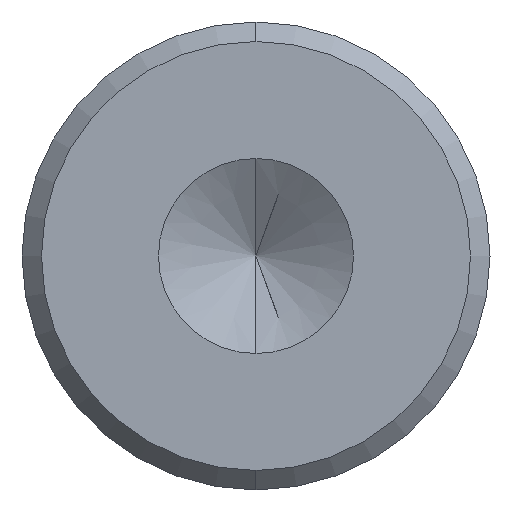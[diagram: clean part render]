
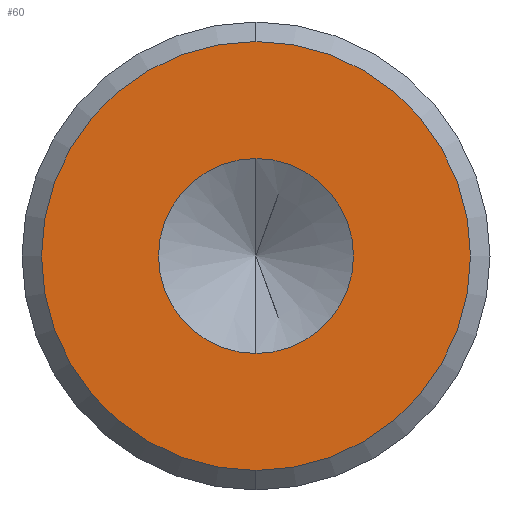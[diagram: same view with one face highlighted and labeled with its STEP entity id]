
A CAD part, left-side view. The second image highlights one B-rep face of the part: STEP entity #60.
In plain terms, the highlighted planar face has unit normal (-1, 0, 0).
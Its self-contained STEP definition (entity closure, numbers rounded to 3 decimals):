
#60 = ADVANCED_FACE ( 'NONE', ( #187, #190 ), #273, .F. ) ;
#61 = ORIENTED_EDGE ( 'NONE', *, *, #62, .T. ) ;
#62 = EDGE_CURVE ( 'NONE', #85, #77, #272, .T. ) ;
#69 = ORIENTED_EDGE ( 'NONE', *, *, #104, .F. ) ;
#70 = ORIENTED_EDGE ( 'NONE', *, *, #162, .F. ) ;
#77 = VERTEX_POINT ( 'NONE', #310 ) ;
#85 = VERTEX_POINT ( 'NONE', #335 ) ;
#90 = EDGE_CURVE ( 'NONE', #77, #85, #390, .T. ) ;
#97 = ORIENTED_EDGE ( 'NONE', *, *, #90, .T. ) ;
#104 = EDGE_CURVE ( 'NONE', #160, #154, #371, .T. ) ;
#120 = EDGE_LOOP ( 'NONE', ( #69, #70 ) ) ;
#136 = EDGE_LOOP ( 'NONE', ( #61, #97 ) ) ;
#154 = VERTEX_POINT ( 'NONE', #338 ) ;
#160 = VERTEX_POINT ( 'NONE', #434 ) ;
#162 = EDGE_CURVE ( 'NONE', #154, #160, #458, .T. ) ;
#187 = FACE_OUTER_BOUND ( 'NONE', #136, .T. ) ;
#190 = FACE_BOUND ( 'NONE', #120, .T. ) ;
#204 = CARTESIAN_POINT ( 'NONE',  ( -108., 0., 0. ) ) ;
#258 = DIRECTION ( 'NONE',  ( 0., 0., -1. ) ) ;
#259 = DIRECTION ( 'NONE',  ( -1., 0., 0. ) ) ;
#260 = CARTESIAN_POINT ( 'NONE',  ( -108., 0., 0. ) ) ;
#261 = AXIS2_PLACEMENT_3D ( 'NONE', #260, #259, #258 ) ;
#262 = DIRECTION ( 'NONE',  ( 0., 0., -1. ) ) ;
#263 = DIRECTION ( 'NONE',  ( 1., 0., 0. ) ) ;
#266 = AXIS2_PLACEMENT_3D ( 'NONE', #204, #263, #262 ) ;
#272 = CIRCLE ( 'NONE', #261, 5.5 ) ;
#273 = PLANE ( 'NONE',  #266 ) ;
#310 = CARTESIAN_POINT ( 'NONE',  ( -108., 0., 5.5 ) ) ;
#328 = DIRECTION ( 'NONE',  ( 0., 0., 1. ) ) ;
#329 = DIRECTION ( 'NONE',  ( -1., 0., 0. ) ) ;
#330 = AXIS2_PLACEMENT_3D ( 'NONE', #365, #329, #328 ) ;
#335 = CARTESIAN_POINT ( 'NONE',  ( -108., 0., -5.5 ) ) ;
#338 = CARTESIAN_POINT ( 'NONE',  ( -108., 0., -2.5 ) ) ;
#365 = CARTESIAN_POINT ( 'NONE',  ( -108., 0., 0. ) ) ;
#371 = CIRCLE ( 'NONE', #330, 2.5 ) ;
#377 = DIRECTION ( 'NONE',  ( 0., 0., -1. ) ) ;
#378 = DIRECTION ( 'NONE',  ( -1., 0., 0. ) ) ;
#386 = AXIS2_PLACEMENT_3D ( 'NONE', #397, #378, #377 ) ;
#390 = CIRCLE ( 'NONE', #386, 5.5 ) ;
#397 = CARTESIAN_POINT ( 'NONE',  ( -108., 0., 0. ) ) ;
#434 = CARTESIAN_POINT ( 'NONE',  ( -108., 0., 2.5 ) ) ;
#455 = DIRECTION ( 'NONE',  ( -1., 0., 0. ) ) ;
#456 = CARTESIAN_POINT ( 'NONE',  ( -108., 0., 0. ) ) ;
#458 = CIRCLE ( 'NONE', #481, 2.5 ) ;
#481 = AXIS2_PLACEMENT_3D ( 'NONE', #456, #455, #483 ) ;
#483 = DIRECTION ( 'NONE',  ( 0., 0., 1. ) ) ;
